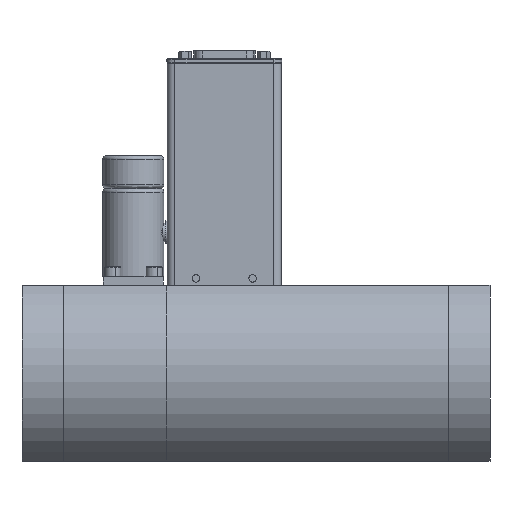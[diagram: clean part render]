
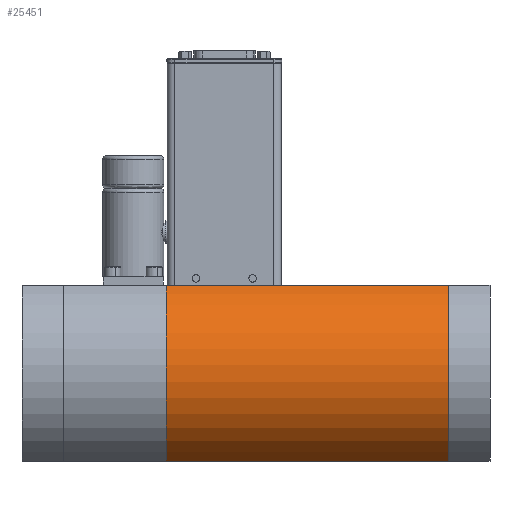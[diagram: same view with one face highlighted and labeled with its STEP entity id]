
A CAD part, left-side view. The second image highlights one B-rep face of the part: STEP entity #25451.
In plain terms, the highlighted cylindrical face has radius 42 mm (diameter 84 mm), a partial arc.
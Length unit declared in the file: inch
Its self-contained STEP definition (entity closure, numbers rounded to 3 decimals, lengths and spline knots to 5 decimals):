
#660 = CARTESIAN_POINT ( 'NONE',  ( -0.76007, 4.72441, 1.4685 ) ) ;
#2163 = DIRECTION ( 'NONE',  ( 0., -1., 0. ) ) ;
#2619 = CARTESIAN_POINT ( 'NONE',  ( -0.76007, 0., 1.4685 ) ) ;
#5150 = VECTOR ( 'NONE', #43070, 39.37008 ) ;
#5227 = EDGE_LOOP ( 'NONE', ( #5538, #42707, #43150, #13719 ) ) ;
#5538 = ORIENTED_EDGE ( 'NONE', *, *, #29862, .T. ) ;
#11544 = CARTESIAN_POINT ( 'NONE',  ( -0.76007, 0., -1.4685 ) ) ;
#12484 = VERTEX_POINT ( 'NONE', #32049 ) ;
#13416 = VERTEX_POINT ( 'NONE', #2619 ) ;
#13719 = ORIENTED_EDGE ( 'NONE', *, *, #16182, .F. ) ;
#13781 = CARTESIAN_POINT ( 'NONE',  ( 0., 0., 0. ) ) ;
#16182 = EDGE_CURVE ( 'NONE', #13416, #16355, #16917, .T. ) ;
#16355 = VERTEX_POINT ( 'NONE', #46871 ) ;
#16917 = CIRCLE ( 'NONE', #43976, 1.65354 ) ;
#16944 = DIRECTION ( 'NONE',  ( 0., 0., 1. ) ) ;
#19053 = DIRECTION ( 'NONE',  ( 0., -1., 0. ) ) ;
#22930 = LINE ( 'NONE', #11544, #24889 ) ;
#24806 = DIRECTION ( 'NONE',  ( 0., -1., 0. ) ) ;
#24889 = VECTOR ( 'NONE', #19053, 39.37008 ) ;
#25451 = ADVANCED_FACE ( 'NONE', ( #47859 ), #40851, .T. ) ;
#28288 = CARTESIAN_POINT ( 'NONE',  ( -0.76007, 0., 1.4685 ) ) ;
#28433 = CARTESIAN_POINT ( 'NONE',  ( 0., 4.72441, 0. ) ) ;
#29862 = EDGE_CURVE ( 'NONE', #13416, #31270, #46689, .T. ) ;
#31270 = VERTEX_POINT ( 'NONE', #660 ) ;
#32049 = CARTESIAN_POINT ( 'NONE',  ( -0.76007, 4.72441, -1.4685 ) ) ;
#34358 = CIRCLE ( 'NONE', #37429, 1.65354 ) ;
#35870 = AXIS2_PLACEMENT_3D ( 'NONE', #40144, #40608, #36991 ) ;
#36991 = DIRECTION ( 'NONE',  ( 0., 0., 1. ) ) ;
#37429 = AXIS2_PLACEMENT_3D ( 'NONE', #28433, #24806, #39593 ) ;
#39593 = DIRECTION ( 'NONE',  ( 0., 0., 1. ) ) ;
#40144 = CARTESIAN_POINT ( 'NONE',  ( 0., 0., 0. ) ) ;
#40608 = DIRECTION ( 'NONE',  ( 0., 1., 0. ) ) ;
#40813 = EDGE_CURVE ( 'NONE', #12484, #16355, #22930, .T. ) ;
#40851 = CYLINDRICAL_SURFACE ( 'NONE', #35870, 1.65354 ) ;
#42707 = ORIENTED_EDGE ( 'NONE', *, *, #42777, .T. ) ;
#42777 = EDGE_CURVE ( 'NONE', #31270, #12484, #34358, .T. ) ;
#43070 = DIRECTION ( 'NONE',  ( 0., 1., 0. ) ) ;
#43150 = ORIENTED_EDGE ( 'NONE', *, *, #40813, .T. ) ;
#43976 = AXIS2_PLACEMENT_3D ( 'NONE', #13781, #2163, #16944 ) ;
#46689 = LINE ( 'NONE', #28288, #5150 ) ;
#46871 = CARTESIAN_POINT ( 'NONE',  ( -0.76007, 0., -1.4685 ) ) ;
#47859 = FACE_OUTER_BOUND ( 'NONE', #5227, .T. ) ;
